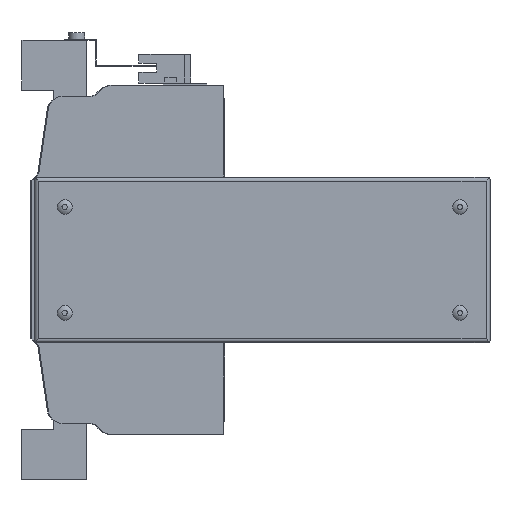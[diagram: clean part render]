
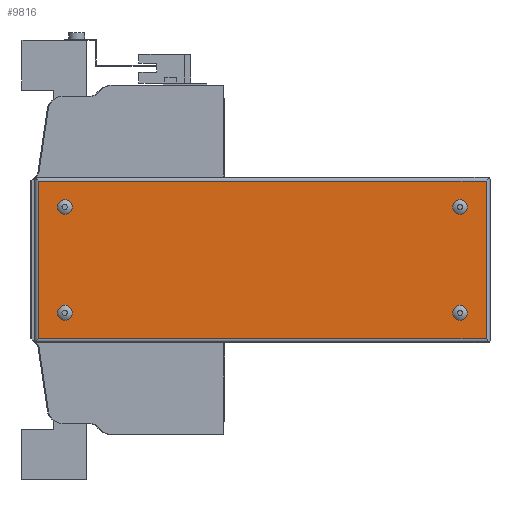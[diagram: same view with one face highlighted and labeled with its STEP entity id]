
A CAD part, left-side view. The second image highlights one B-rep face of the part: STEP entity #9816.
In plain terms, the highlighted planar face has unit normal (-1, 0, 0).
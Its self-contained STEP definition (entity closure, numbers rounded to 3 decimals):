
#285=PLANE('',#10565);
#983=LINE('',#15108,#2054);
#984=LINE('',#15111,#2055);
#985=LINE('',#15113,#2056);
#986=LINE('',#15115,#2057);
#2054=VECTOR('',#12248,1000.);
#2055=VECTOR('',#12249,1000.);
#2056=VECTOR('',#12250,1000.);
#2057=VECTOR('',#12251,1000.);
#3796=ORIENTED_EDGE('',*,*,#5983,.F.);
#3797=ORIENTED_EDGE('',*,*,#5984,.F.);
#3798=ORIENTED_EDGE('',*,*,#5985,.F.);
#3799=ORIENTED_EDGE('',*,*,#5986,.F.);
#3800=ORIENTED_EDGE('',*,*,#5987,.F.);
#3801=ORIENTED_EDGE('',*,*,#5988,.F.);
#3802=ORIENTED_EDGE('',*,*,#5989,.T.);
#3803=ORIENTED_EDGE('',*,*,#5990,.T.);
#5983=EDGE_CURVE('',#7183,#7183,#7837,.F.);
#5984=EDGE_CURVE('',#7184,#7184,#7838,.F.);
#5985=EDGE_CURVE('',#7185,#7185,#7839,.F.);
#5986=EDGE_CURVE('',#7186,#7186,#7840,.F.);
#5987=EDGE_CURVE('',#7187,#7188,#983,.T.);
#5988=EDGE_CURVE('',#7189,#7187,#984,.T.);
#5989=EDGE_CURVE('',#7189,#7190,#985,.T.);
#5990=EDGE_CURVE('',#7190,#7188,#986,.T.);
#7183=VERTEX_POINT('',#15101);
#7184=VERTEX_POINT('',#15103);
#7185=VERTEX_POINT('',#15105);
#7186=VERTEX_POINT('',#15107);
#7187=VERTEX_POINT('',#15109);
#7188=VERTEX_POINT('',#15110);
#7189=VERTEX_POINT('',#15112);
#7190=VERTEX_POINT('',#15114);
#7837=CIRCLE('',#10566,3.7);
#7838=CIRCLE('',#10567,3.7);
#7839=CIRCLE('',#10568,3.7);
#7840=CIRCLE('',#10569,3.7);
#8296=EDGE_LOOP('',(#3796));
#8297=EDGE_LOOP('',(#3797));
#8298=EDGE_LOOP('',(#3798));
#8299=EDGE_LOOP('',(#3799));
#8300=EDGE_LOOP('',(#3800,#3801,#3802,#3803));
#9021=FACE_BOUND('',#8296,.T.);
#9022=FACE_BOUND('',#8297,.T.);
#9023=FACE_BOUND('',#8298,.T.);
#9024=FACE_BOUND('',#8299,.T.);
#9025=FACE_BOUND('',#8300,.T.);
#9816=ADVANCED_FACE('',(#9021,#9022,#9023,#9024,#9025),#285,.F.);
#10565=AXIS2_PLACEMENT_3D('',#15099,#12238,#12239);
#10566=AXIS2_PLACEMENT_3D('',#15100,#12240,#12241);
#10567=AXIS2_PLACEMENT_3D('',#15102,#12242,#12243);
#10568=AXIS2_PLACEMENT_3D('',#15104,#12244,#12245);
#10569=AXIS2_PLACEMENT_3D('',#15106,#12246,#12247);
#12238=DIRECTION('',(1.,0.,0.));
#12239=DIRECTION('',(0.,0.,-1.));
#12240=DIRECTION('',(1.,0.,0.));
#12241=DIRECTION('',(0.,0.,-1.));
#12242=DIRECTION('',(1.,0.,0.));
#12243=DIRECTION('',(0.,0.,-1.));
#12244=DIRECTION('',(1.,0.,0.));
#12245=DIRECTION('',(0.,0.,-1.));
#12246=DIRECTION('',(1.,0.,0.));
#12247=DIRECTION('',(0.,0.,-1.));
#12248=DIRECTION('',(0.,-1.,0.));
#12249=DIRECTION('',(0.,0.,1.));
#12250=DIRECTION('',(0.,-1.,0.));
#12251=DIRECTION('',(0.,0.,1.));
#15099=CARTESIAN_POINT('',(-66.,-131.95,40.5));
#15100=CARTESIAN_POINT('',(-66.,-117.95,26.5));
#15101=CARTESIAN_POINT('',(-66.,-117.95,22.8));
#15102=CARTESIAN_POINT('',(-66.,-117.95,-26.5));
#15103=CARTESIAN_POINT('',(-66.,-117.95,-30.2));
#15104=CARTESIAN_POINT('',(-66.,80.05,26.5));
#15105=CARTESIAN_POINT('',(-66.,80.05,22.8));
#15106=CARTESIAN_POINT('',(-66.,80.05,-26.5));
#15107=CARTESIAN_POINT('',(-66.,80.05,-30.2));
#15108=CARTESIAN_POINT('',(-66.,228.,39.5));
#15109=CARTESIAN_POINT('',(-66.,93.05,39.5));
#15110=CARTESIAN_POINT('',(-66.,-130.95,39.5));
#15111=CARTESIAN_POINT('',(-66.,93.05,-83.));
#15112=CARTESIAN_POINT('',(-66.,93.05,-39.5));
#15113=CARTESIAN_POINT('',(-66.,228.,-39.5));
#15114=CARTESIAN_POINT('',(-66.,-130.95,-39.5));
#15115=CARTESIAN_POINT('',(-66.,-130.95,-83.));
